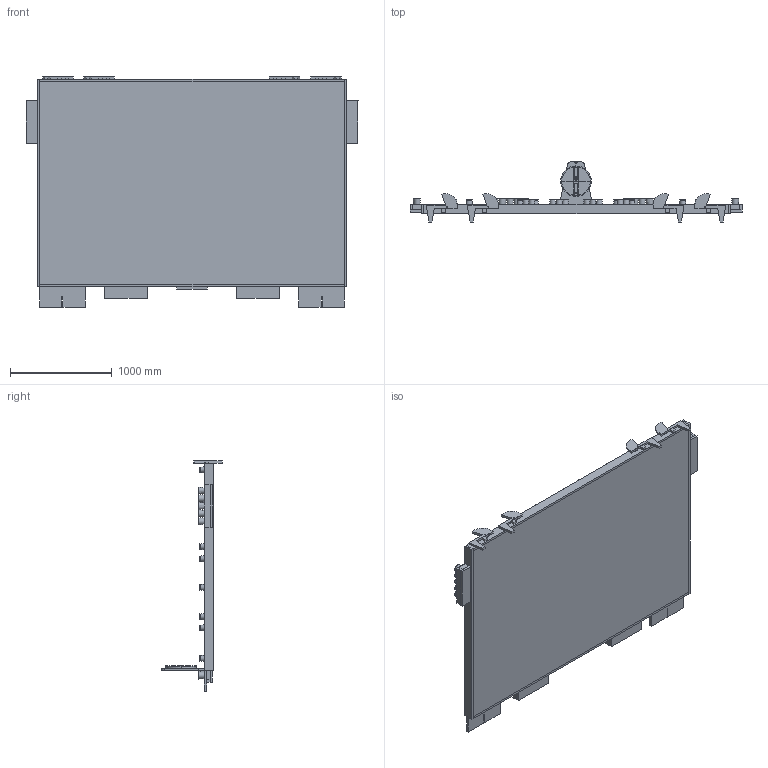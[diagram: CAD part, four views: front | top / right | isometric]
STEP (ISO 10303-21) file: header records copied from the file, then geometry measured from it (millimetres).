
FILE_DESCRIPTION(/* description */ (''),/* implementation_level */ '2;1');
FILE_NAME(/* name */ '/Users/sullivan/Documents/Perso/PlaneteSciences/2020/Commission règlement/Images/Eurobot2020_TableElement_Junior_v50.step',/* time_stamp */ '2019-10-20T21:52:17+02:00',/* author */ (''),/* organization */ (''),/* preprocessor_version */ 'ST-DEVELOPER v18',/* originating_system */ 'Autodesk Translation Framework v8.6.0.1094',/* authorisation */ '');
FILE_SCHEMA (('AUTOMOTIVE_DESIGN { 1 0 10303 214 3 1 1 }'));
Length unit declared in the file: millimetre
Products named in the file (47): TableElement2020; Table2020; Rocher; BaseTable; BorderLong; BorderSmall; Ground; Rocher_1; Rocher_2; Rocher_3; Planche Socle; Planche Fond; Planche Gauche; Planche Droite; Cale; ZoneRocheuse; manchonJaune; manchonJaune_1; Taquet; Component2; Component3; taquet_1; ROUE_MINI_V3_ASSEMBLAGE; SUPPORT; FLECHE; FIXATION; ROUE_V3; INTERIEUR; COUVERCLE BOTTOM; COUVERCLE FRONT; ENTRETOISE; VIS BOIS; RONDELLES; STICKER; POIDS; TaquetCentre; StickerBlue; StickerYellow; ArucoSquare; manchonBleu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
Assembly tree (114 placements, depth 5):
  TableElement2020
    Balise Rouge  x22
    Balise Verte  x22
    Table2020
      ZoneRocheuse  x2
      Rocher
        Planche Socle
        Planche Fond
        Planche Gauche
        Planche Droite
        Cale
      BaseTable
        BorderLong  x2
        BorderSmall  x2
        Ground
      Rocher_1
        Planche Socle
        Planche Fond
        Planche Gauche
        Planche Droite
        Cale
      Rocher_2
        Planche Socle
        Planche Fond
        Planche Gauche
        Planche Droite
        Cale
      Rocher_3
        Planche Socle
        Planche Fond
        Planche Gauche
        Planche Droite
        Cale
      manchonJaune
        Taquet
        Component2
        Component3
      manchonJaune_1
        Taquet
        Component2
        Component3
      taquet_1  x2
      ROUE_MINI_V3_ASSEMBLAGE
        SUPPORT
          FLECHE
        FIXATION
        ROUE_V3
          INTERIEUR
          COUVERCLE BOTTOM
          COUVERCLE FRONT
          ENTRETOISE
          VIS BOIS
          RONDELLES
          STICKER
          POIDS
      TaquetCentre
      StickerBlue
      StickerYellow
      ArucoSquare
      manchonBleu
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Bounding box: 3268 x 595 x 2266 mm (x, y, z)
Volume: 172025175.1 mm3; surface area: 19578672.1 mm2
Topology: 107 solids, 107 shells, 704 faces, 1500 edges, 1047 vertices
Faces by surface type: plane 530, cone 97, cylinder 75, bspline 2
Full cylindrical faces by diameter (mm): 2.578 x13, 2.582 x1, 3 x1, 4 x3, 5 x4, 6 x1, 7 x2, 10 x2, 25 x2, 56 x20
Entity records: 12591 total; most frequent: CARTESIAN_POINT 3578, DIRECTION 1737, ORIENTED_EDGE 1400, EDGE_CURVE 700, AXIS2_PLACEMENT_3D 595, LINE 547, VECTOR 547, VERTEX_POINT 461
